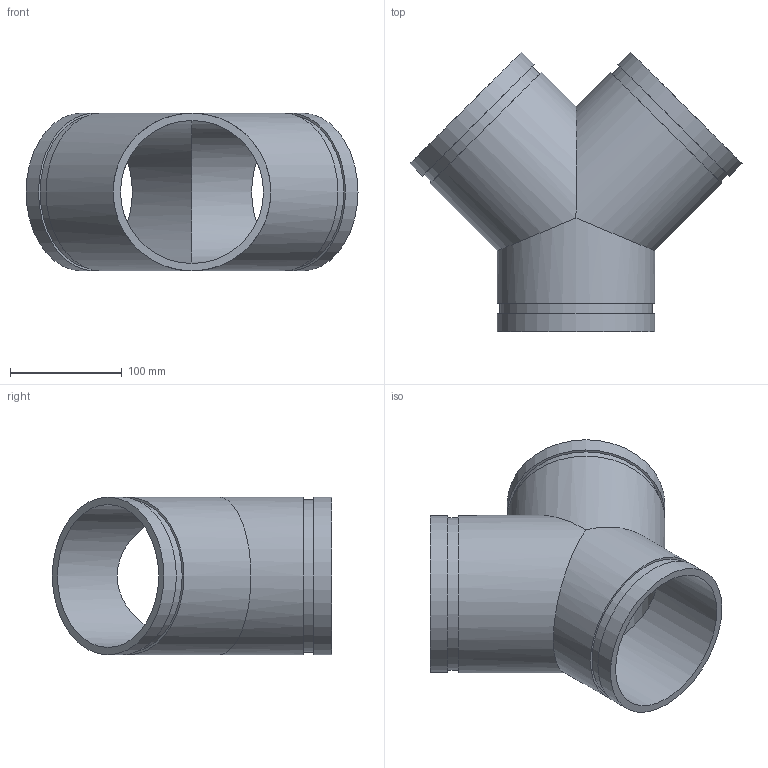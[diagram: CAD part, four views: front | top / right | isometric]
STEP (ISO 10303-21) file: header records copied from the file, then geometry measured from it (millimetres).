
FILE_DESCRIPTION(/* description */ ('This is default description.','CAx-IF Rec.Pracs.---Representation and Presentation of Product Manufacturing Information (PMI)---4.0---2014-10-13'),/* implementation_level */ '2;1');
FILE_NAME(/* name */ 'C:\Users\kkamble\AppData\Roaming\Autodesk\ApplicationPlugins\Back Up\Victaulic_IPS-Tee- Wye_ No 33 SWS (OGS)\Victaulic_IPS-Tee- Wye_ No 33 SWS (OGS)_5.stp',/* time_stamp */ '2020-09-16T22:08:18+06:00',/* author */ ('cgray'),/* organization */ ('Victaulic'),/* preprocessor_version */ 'ST-DEVELOPER v17.2',/* originating_system */ 'Autodesk Inventor 2019',/* authorisation */ '');
FILE_SCHEMA (('AP242_MANAGED_MODEL_BASED_3D_ENGINEERING_MIM_LF { 1 0 10303 442 1 1 4 }'));
Length unit declared in the file: inch
Products named in the file (1): 33 SWS-05.0
Bounding box: 297.48 x 250.34 x 141.3 mm (x, y, z)
Volume: 812550.9 mm3; surface area: 269552.5 mm2
Topology: 1 solids, 1 shells, 21 faces, 48 edges, 34 vertices
Faces by surface type: cylinder 12, plane 9
Full cylindrical faces by diameter (mm): 128.194 x3, 137.033 x3, 141.3 x6
Entity records: 787 total; most frequent: DIRECTION 154, CARTESIAN_POINT 121, ORIENTED_EDGE 96, AXIS2_PLACEMENT_3D 71, EDGE_CURVE 48, VERTEX_POINT 34, EDGE_LOOP 30, CIRCLE 26
